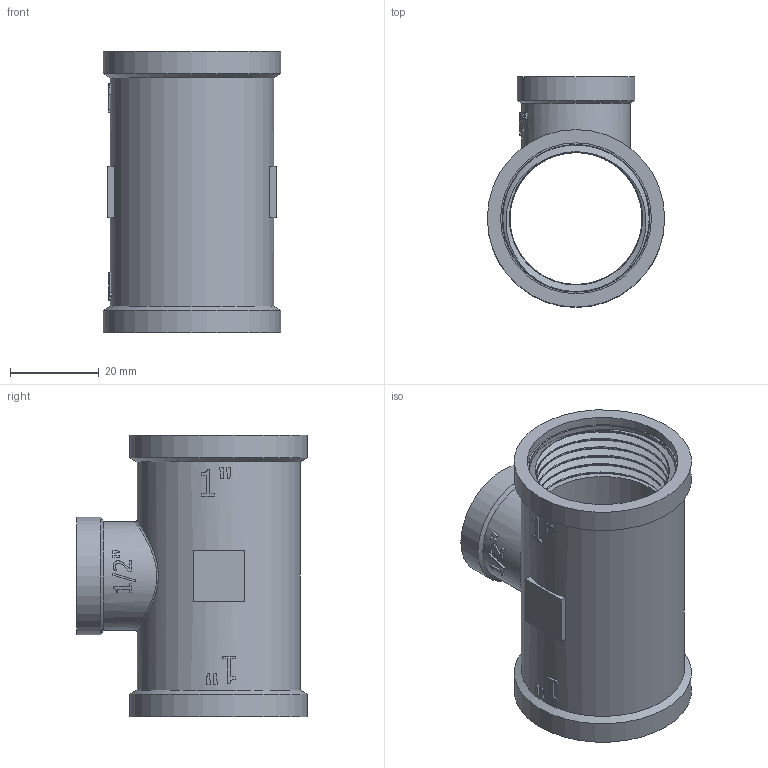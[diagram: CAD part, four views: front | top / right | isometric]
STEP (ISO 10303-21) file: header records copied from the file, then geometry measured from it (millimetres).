
FILE_DESCRIPTION(/* description */ (''),/* implementation_level */ '2;1');
FILE_NAME(/* name */ 'C:\Users\Doom\Desktop\Фадотех\Резьба\T05 18.03.2020\T05 18.03.2020.stp',/* time_stamp */ '2022-01-19T22:27:26+02:00',/* author */ ('Doom'),/* organization */ (''),/* preprocessor_version */ 'ST-DEVELOPER v18',/* originating_system */ 'Autodesk Inventor 2020',/* authorisation */ '');
FILE_SCHEMA (('AUTOMOTIVE_DESIGN { 1 0 10303 214 3 1 1 }'));
Length unit declared in the file: millimetre
Products named in the file (1): T05 18.03.2020
Bounding box: 40 x 52 x 63.5 mm (x, y, z)
Volume: 27386 mm3; surface area: 28566.4 mm2
Topology: 4 solids, 4 shells, 198 faces, 528 edges, 356 vertices
Faces by surface type: plane 105, cylinder 53, bspline 37, cone 3
Full cylindrical faces by diameter (mm): 18.26 x7, 18.63 x1, 20.95 x2, 21.5 x1, 24.5 x1, 26.5 x1, 29.816 x12, 30.29 x1, 33.24 x4, 34 x2, 36.8 x1, 40 x2
Entity records: 17580 total; most frequent: CARTESIAN_POINT 12783, ORIENTED_EDGE 1050, DIRECTION 875, EDGE_CURVE 525, VERTEX_POINT 355, AXIS2_PLACEMENT_3D 325, EDGE_LOOP 228, LINE 225
